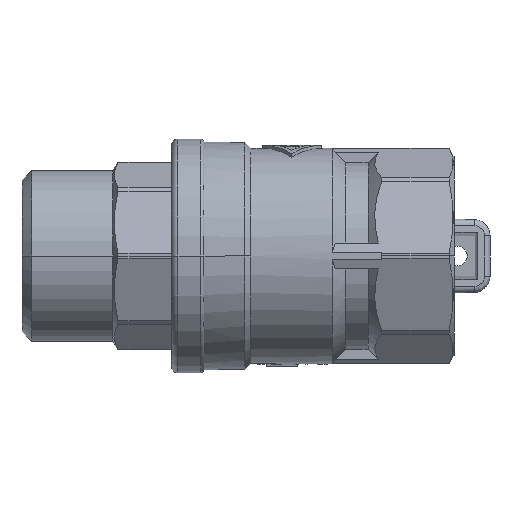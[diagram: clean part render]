
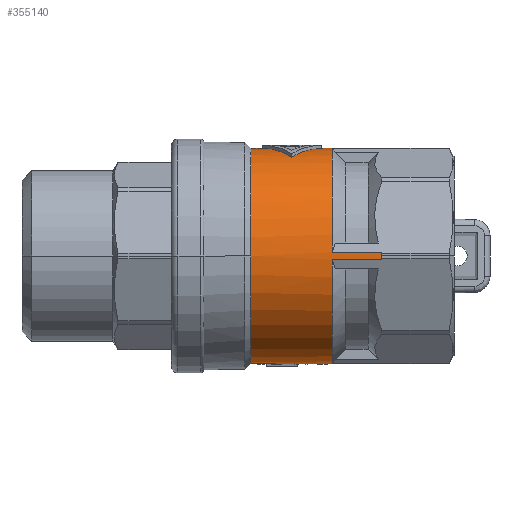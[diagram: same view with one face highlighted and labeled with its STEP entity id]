
A CAD part, front view. The second image highlights one B-rep face of the part: STEP entity #355140.
In plain terms, the highlighted cylindrical face has radius 16.55 mm (diameter 33.1 mm), a partial arc.
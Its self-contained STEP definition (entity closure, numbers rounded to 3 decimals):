
#280=CARTESIAN_POINT('',(-15.305,-16.54,
0.572));
#290=VERTEX_POINT('',#280);
#320=CARTESIAN_POINT('',(-15.305,0.,0.));
#330=DIRECTION('',(-1.,0.,0.));
#340=DIRECTION('',(0.,1.,0.));
#350=AXIS2_PLACEMENT_3D('',#320,#330,#340);
#360=CIRCLE('',#350,16.55);
#370=CARTESIAN_POINT('',(-15.305,-16.55,0.)
);
#380=VERTEX_POINT('',#370);
#390=EDGE_CURVE('',#380,#290,#360,.T.);
#1930=CARTESIAN_POINT('',(-15.305,-0.572,
-16.54));
#1940=VERTEX_POINT('',#1930);
#3780=CARTESIAN_POINT('',(-7.705,-0.572,
-16.54));
#3790=VERTEX_POINT('',#3780);
#3820=CARTESIAN_POINT('',(-10.,-0.572,-16.54));
#3830=DIRECTION('',(-1.,0.,0.));
#3840=VECTOR('',#3830,1.);
#3850=LINE('',#3820,#3840);
#3860=EDGE_CURVE('',#3790,#1940,#3850,.T.);
#6030=CARTESIAN_POINT('',(4.795,0.,0.));
#6040=DIRECTION('',(1.,0.,0.));
#6050=DIRECTION('',(0.,-1.,0.));
#6060=AXIS2_PLACEMENT_3D('',#6030,#6040,#6050);
#6070=CIRCLE('',#6060,16.55);
#6080=CARTESIAN_POINT('',(4.795,-16.55,0.));
#6090=VERTEX_POINT('',#6080);
#6100=CARTESIAN_POINT('',(4.795,0.,-16.55))
;
#6110=VERTEX_POINT('',#6100);
#6120=EDGE_CURVE('',#6090,#6110,#6070,.T.);
#25980=CARTESIAN_POINT('',(-15.305,0.,0.));
#25990=DIRECTION('',(-1.,0.,0.));
#26000=DIRECTION('',(0.,1.,0.));
#26010=AXIS2_PLACEMENT_3D('',#25980,#25990,#26000);
#26020=CIRCLE('',#26010,16.55);
#26030=CARTESIAN_POINT('',(-15.305,-0.572,
16.54));
#26040=VERTEX_POINT('',#26030);
#26050=CARTESIAN_POINT('',(-15.305,0.,16.55));
#26060=VERTEX_POINT('',#26050);
#26070=EDGE_CURVE('',#26040,#26060,#26020,.T.);
#31140=CARTESIAN_POINT('',(-15.305,0.,0.));
#31150=DIRECTION('',(-1.,0.,0.));
#31160=DIRECTION('',(0.,1.,0.));
#31170=AXIS2_PLACEMENT_3D('',#31140,#31150,#31160);
#31180=CIRCLE('',#31170,16.55);
#31210=CARTESIAN_POINT('',(-15.305,0.,-16.55
));
#31220=VERTEX_POINT('',#31210);
#31490=EDGE_CURVE('',#31220,#1940,#31180,.T.);
#32160=CARTESIAN_POINT('',(-10.,-16.54,-0.572));
#32170=DIRECTION('',(-1.,0.,0.));
#32180=VECTOR('',#32170,1.);
#32190=LINE('',#32160,#32180);
#32200=CARTESIAN_POINT('',(-7.705,-16.54,
-0.572));
#32210=VERTEX_POINT('',#32200);
#32220=CARTESIAN_POINT('',(-15.305,-16.54,
-0.572));
#32230=VERTEX_POINT('',#32220);
#32240=EDGE_CURVE('',#32210,#32230,#32190,.T.);
#33960=CARTESIAN_POINT('',(-10.,0.,0.));
#33970=DIRECTION('',(-1.,0.,0.));
#33980=DIRECTION('',(0.,0.,1.));
#33990=AXIS2_PLACEMENT_3D('',#33960,#33970,#33980);
#34000=CYLINDRICAL_SURFACE('',#33990,16.55);
#35910=CARTESIAN_POINT('',(-7.705,-0.572,
16.54));
#35920=VERTEX_POINT('',#35910);
#35950=CARTESIAN_POINT('',(-7.705,0.,0.));
#35960=DIRECTION('',(1.,0.,0.));
#35970=DIRECTION('',(0.,-1.,0.));
#35980=AXIS2_PLACEMENT_3D('',#35950,#35960,#35970);
#35990=CIRCLE('',#35980,16.55);
#36000=CARTESIAN_POINT('',(-7.705,-16.54,
0.572));
#36010=VERTEX_POINT('',#36000);
#36020=EDGE_CURVE('',#35920,#36010,#35990,.T.);
#38370=CARTESIAN_POINT('',(-10.,-16.54,0.572));
#38380=DIRECTION('',(-1.,0.,0.));
#38390=VECTOR('',#38380,1.);
#38400=LINE('',#38370,#38390);
#38410=EDGE_CURVE('',#36010,#290,#38400,.T.);
#42270=CARTESIAN_POINT('',(-7.705,0.,0.));
#42280=DIRECTION('',(1.,0.,0.));
#42290=DIRECTION('',(0.,-1.,0.));
#42300=AXIS2_PLACEMENT_3D('',#42270,#42280,#42290);
#42310=CIRCLE('',#42300,16.55);
#42320=EDGE_CURVE('',#32210,#3790,#42310,.T.);
#85810=CARTESIAN_POINT('',(-1.5,-6.5,-15.22));
#85820=VERTEX_POINT('',#85810);
#85850=CARTESIAN_POINT('',(3.051,0.,0.));
#85860=DIRECTION('',(0.819,-0.574,
0.));
#85870=DIRECTION('',(0.574,0.819,
0.));
#85880=AXIS2_PLACEMENT_3D('',#85850,#85860,#85870);
#85890=ELLIPSE('',#85880,20.204,16.55);
#85900=CARTESIAN_POINT('',(3.051,0.,-16.55)
);
#85910=VERTEX_POINT('',#85900);
#85920=EDGE_CURVE('',#85820,#85910,#85890,.T.);
#140290=CARTESIAN_POINT('',(-10.,0.,-16.55));
#140300=DIRECTION('',(-1.,0.,0.));
#140310=VECTOR('',#140300,1.);
#140320=LINE('',#140290,#140310);
#140330=CARTESIAN_POINT('',(-6.051,0.,
-16.55));
#140340=VERTEX_POINT('',#140330);
#140350=EDGE_CURVE('',#140340,#31220,#140320,.T.);
#140530=EDGE_CURVE('',#6110,#85910,#140320,.T.);
#156560=CARTESIAN_POINT('',(-10.,-0.572,16.54));
#156570=DIRECTION('',(-1.,0.,0.));
#156580=VECTOR('',#156570,1.);
#156590=LINE('',#156560,#156580);
#156600=EDGE_CURVE('',#35920,#26040,#156590,.T.);
#167560=CARTESIAN_POINT('',(-6.051,0.,
0.));
#167570=DIRECTION('',(-0.819,-0.574,
0.));
#167580=DIRECTION('',(0.574,-0.819,
0.));
#167590=AXIS2_PLACEMENT_3D('',#167560,#167570,#167580);
#167600=ELLIPSE('',#167590,20.204,16.55);
#167610=EDGE_CURVE('',#140340,#85820,#167600,.T.);
#352940=CARTESIAN_POINT('',(4.795,0.,16.55));
#352950=VERTEX_POINT('',#352940);
#352960=EDGE_CURVE('',#352950,#6090,#6070,.T.);
#354890=ORIENTED_EDGE('',*,*,#140350,.F.);
#354900=ORIENTED_EDGE('',*,*,#31490,.F.);
#354910=ORIENTED_EDGE('',*,*,#3860,.T.);
#354920=ORIENTED_EDGE('',*,*,#42320,.T.);
#354930=ORIENTED_EDGE('',*,*,#32240,.F.);
#354940=EDGE_CURVE('',#32230,#380,#360,.T.);
#354950=ORIENTED_EDGE('',*,*,#354940,.F.);
#354960=ORIENTED_EDGE('',*,*,#390,.F.);
#354970=ORIENTED_EDGE('',*,*,#38410,.T.);
#354980=ORIENTED_EDGE('',*,*,#36020,.T.);
#354990=ORIENTED_EDGE('',*,*,#156600,.F.);
#355000=ORIENTED_EDGE('',*,*,#26070,.F.);
#355010=CARTESIAN_POINT('',(-10.,0.,16.55));
#355020=DIRECTION('',(-1.,0.,0.));
#355030=VECTOR('',#355020,1.);
#355040=LINE('',#355010,#355030);
#355050=EDGE_CURVE('',#352950,#26060,#355040,.T.);
#355060=ORIENTED_EDGE('',*,*,#355050,.T.);
#355070=ORIENTED_EDGE('',*,*,#352960,.F.);
#355080=ORIENTED_EDGE('',*,*,#6120,.F.);
#355090=ORIENTED_EDGE('',*,*,#140530,.F.);
#355100=ORIENTED_EDGE('',*,*,#85920,.T.);
#355110=ORIENTED_EDGE('',*,*,#167610,.T.);
#355120=EDGE_LOOP('',(#355110,#355100,#355090,#355080,#355070,#355060,
#355000,#354990,#354980,#354970,#354960,#354950,#354930,#354920,#354910,
#354900,#354890));
#355130=FACE_OUTER_BOUND('',#355120,.T.);
#355140=ADVANCED_FACE('',(#355130),#34000,.T.);
